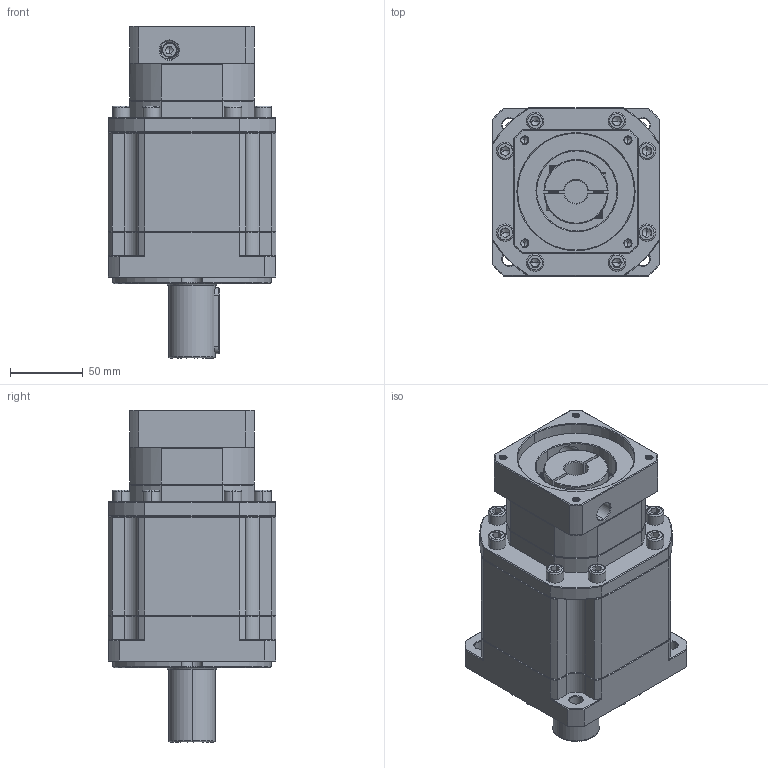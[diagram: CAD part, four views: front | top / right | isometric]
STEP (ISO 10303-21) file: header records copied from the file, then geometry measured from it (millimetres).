
FILE_DESCRIPTION (( 'STEP AP214' ), '1' );
FILE_NAME ('ZB115A-D32-L3-P2-16-80-100-M6.step', '2023-08-26T10:03:01', ( '' ), ( '' ), 'SwSTEP 2.0', 'SolidWorks 2016', '' );
FILE_SCHEMA (( 'AUTOMOTIVE_DESIGN' ));
Length unit declared in the file: millimetre
Products named in the file (1): ZB115A-D32-L3-P2-16-80-100-M6
Bounding box: 115 x 115 x 227.5 mm (x, y, z)
Volume: 1697351.7 mm3; surface area: 146548.2 mm2
Topology: 5 solids, 6 shells, 2412 faces, 6326 edges, 4016 vertices
Faces by surface type: plane 1190, bspline 427, cylinder 425, cone 355, torus 15
Entity records: 128540 total; most frequent: CARTESIAN_POINT 46253, ORIENTED_EDGE 12576, DIRECTION 9949, EDGE_CURVE 6288, VECTOR 4039, LINE 4039, VERTEX_POINT 4016, AXIS2_PLACEMENT_3D 2955
